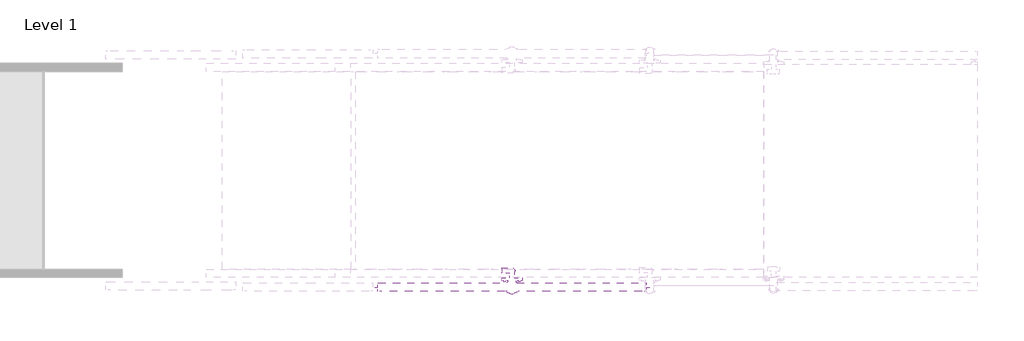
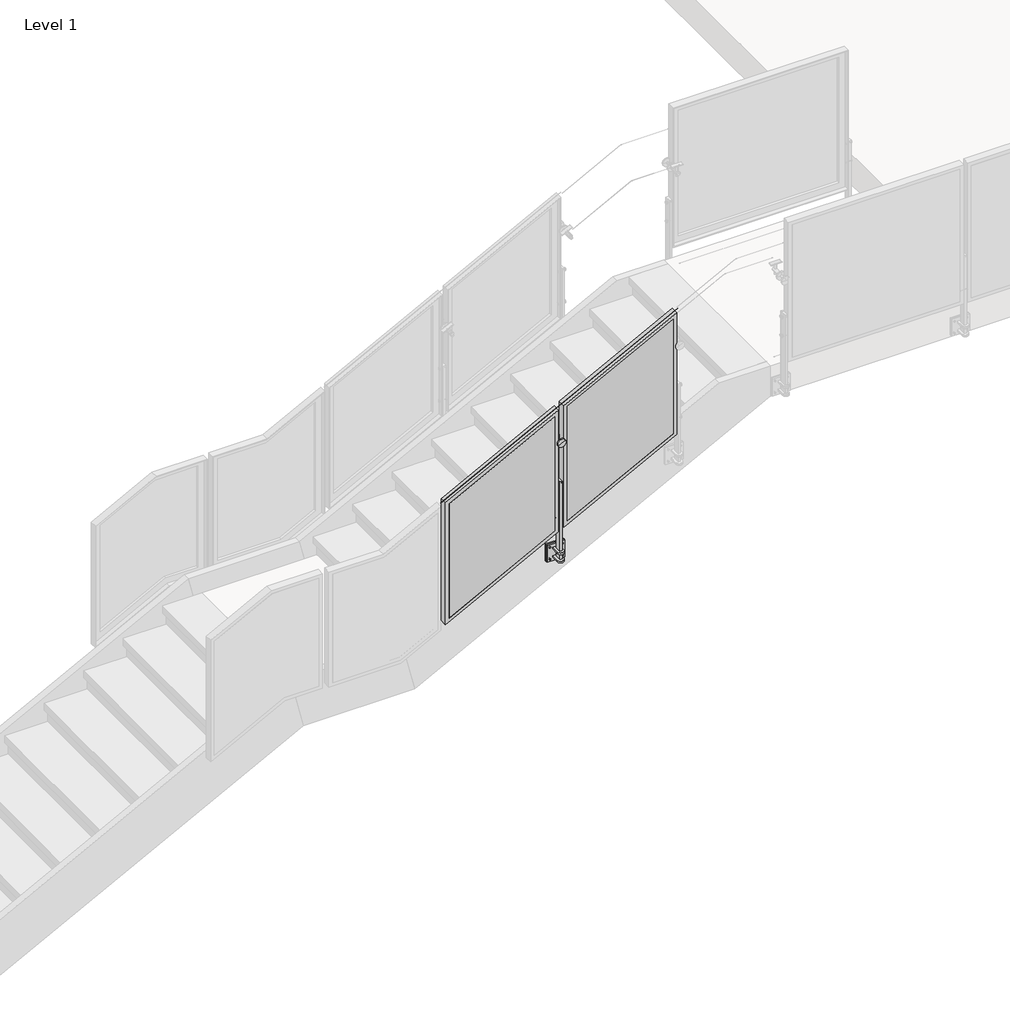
# One storey, part 22 of 37: 1 railing.
"""IFC4 building model written with IfcOpenShell, lengths in millimetres."""

from ifc_helpers import new_model, si_unit, point, frame, frame_2d, origin, place, context, project, spatial, polyline, circle_curve, ellipse_curve, trimmed, segment, composite_curve, outline, extrude, faceted_brep, element, save
from ifc_brep_helpers import plane_surface, cylinder_surface, advanced_brep

model = new_model("IFC4")

# Units and contexts
model_context = context("Model", 3, world=origin())
ifc_project = project(units=[si_unit("LENGTHUNIT", "METRE", prefix="MILLI")], contexts=[model_context])

# Site, building, storey
site = spatial("IfcSite", under=ifc_project)
building = spatial("IfcBuilding", under=site)
storey = spatial("IfcBuildingStorey", under=building, Name="Level 1", Elevation=0.0)

# Railing
placement = place(None, origin())
element("IfcRailing", 1, ObjectType="Metal-Panel-VIVA-FRAME-Fascia-Stairs-Upper", at=placement, inside=storey, context=model_context, shape_type="SolidModel", body=[
    advanced_brep(
    [(-9846.2150814, -3975.5362112, 2887.1943483), (-9846.2150814, -3974.5362112, 2887.1943483), (-8169.8150814, -3975.5362112, 3758.0514911), (-8169.8150814, -3974.5362112, 3758.0514911)],
    [
        (0, 1, ellipse_curve(frame((-9846.2150814, -3975.0362112, 2887.1943483), z_axis=(-1.0, 0.0, 0.0), x_axis=(0.0, 0.0, -1.0)), 0.5634403, 0.5)),
        (1, 0, ellipse_curve(frame((-9846.2150814, -3975.0362112, 2887.1943483), z_axis=(-1.0, 0.0, 0.0), x_axis=(0.0, 0.0, -1.0)), 0.5634403, 0.5)),
        (2, 3, ellipse_curve(frame((-8169.8150814, -3975.0362112, 3758.0514911), z_axis=(1.0, 0.0, 0.0), x_axis=(0.0, 0.0, -1.0)), 0.5634403, 0.5)),
        (3, 2, ellipse_curve(frame((-8169.8150814, -3975.0362112, 3758.0514911), z_axis=(1.0, 0.0, 0.0), x_axis=(0.0, 0.0, -1.0)), 0.5634403, 0.5)),
        (0, 2),
        (3, 1),
    ],
    [
        plane_surface(frame((-9846.2150814, -3975.0362112, 2887.7577886), z_axis=(-1.0, 0.0, 0.0), x_axis=(0.0, 1.0, 0.0))),
        plane_surface(frame((-8169.8150814, -3975.0362112, 3758.6149315), z_axis=(1.0, 0.0, 0.0), x_axis=(0.0, 1.0, 0.0))),
        cylinder_surface(frame((-9845.9845864, -3975.0362112, 2887.3140859), z_axis=(-0.8874054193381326, 0.0, -0.46098982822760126), x_axis=(0.0, 1.0, 0.0)), 0.5),
    ],
    [
        (0, [[1, 2]]),
        (1, [[3, 4]]),
        (2, [[-1, 5, -4, 6]]),
        (2, [[-2, -6, -3, -5]]),
    ],
),
    extrude(outline(polyline([(3315.2073719, -8963.5691244), (2460.8755486, -8963.5691244), (2850.1265024, -8214.2610383), (3704.4583258, -8214.2610383), (3315.2073719, -8963.5691244)])), frame((0.0, -3998.2816112, 0.0), z_axis=(0.0, 1.0, 0.0), x_axis=(0.0, 0.0, 1.0)), (0.0, 0.0, 1.0), 3.0),
    faceted_brep([(-8988.9691244, -3998.2816112, 3330.6353354), (-8988.9691244, -3998.2816112, 2419.0579747), (-8188.8610383, -3998.2816112, 2834.6985389), (-8188.8610383, -3998.2816112, 3746.2758996), (-8963.5691244, -3998.2816112, 3315.2073719), (-8214.2610383, -3998.2816112, 3704.4583258), (-8214.2610383, -3998.2816112, 2850.1265024), (-8963.5691244, -3998.2816112, 2460.8755486), (-8214.2610383, -3995.2816112, 2850.1265024), (-8963.5691244, -3995.2816112, 2460.8755486), (-8214.2610383, -3995.2816112, 3704.4583258), (-8963.5691244, -3995.2816112, 3315.2073719), (-8982.9747244, -3944.4816112, 2428.9269221), (-8982.9747244, -3975.2918112, 2428.9269221), (-8194.8554383, -3975.2918112, 2838.3395383), (-8194.8554383, -3944.4816112, 2838.3395383), (-8194.8554383, -3975.2918112, 3736.4069522), (-8194.8554383, -3944.4816112, 3736.4069522), (-8982.9747244, -3944.4816112, 3326.994336), (-8982.9747244, -3975.2918112, 3326.994336), (-8188.8610383, -3944.4816112, 2834.6985389), (-8988.9691244, -3944.4816112, 2419.0579747), (-8988.9691244, -3944.4816112, 3330.6353354), (-8188.8610383, -3944.4816112, 3746.2758996), (-8938.1691244, -3995.2816112, 3299.7794085), (-8239.6610383, -3995.2816112, 3662.6407519), (-8239.6610383, -3995.2816112, 2865.5544658), (-8938.1691244, -3995.2816112, 2502.6931224), (-8239.6610383, -3975.2918112, 2865.5544658), (-8239.6610383, -3975.2918112, 3662.6407519), (-8938.1691244, -3975.2918112, 3299.7794085), (-8938.1691244, -3975.2918112, 2502.6931224)], [[[0, 1, 2, 3], [4, 5, 6, 7]], [[7, 6, 8, 9]], [[6, 5, 10, 8]], [[5, 4, 11, 10]], [[4, 7, 9, 11]], [[12, 13, 14, 15]], [[15, 14, 16, 17]], [[13, 12, 18, 19]], [[20, 21, 22, 23], [12, 15, 17, 18]], [[21, 1, 0, 22]], [[21, 20, 2, 1]], [[2, 20, 23, 3]], [[22, 0, 3, 23]], [[11, 9, 8, 10], [24, 25, 26, 27]], [[14, 13, 19, 16], [28, 29, 30, 31]], [[19, 18, 17, 16]], [[25, 24, 30, 29]], [[26, 25, 29, 28]], [[27, 26, 28, 31]], [[24, 27, 31, 30]]]),
    extrude(outline(composite_curve([segment(polyline([(2.99974, 0.0), (0.0, 0.0)]), True, "CONTINUOUS"), segment(trimmed(circle_curve(frame_2d((-19.0451471, 0.0)), 19.0451471), [point((0.0, 0.0))], [point((-23.6280664, 18.4855208))], True, "CARTESIAN"), True, "CONTINUOUS"), segment(polyline([(-23.6280664, 18.4855208), (-24.3499073, 21.3971159)]), True, "CONTINUOUS"), segment(trimmed(circle_curve(frame_2d((-19.0451471, 0.0)), 22.0448871), [point((-24.3499073, 21.3971159))], [point((2.99974, 0.0))], False, "CARTESIAN"), True, "CONTINUOUS")], self_intersect=False)), frame((-9070.5027918, -3886.2802112, 3095.1525569), z_axis=(0.8874054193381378, 0.0, 0.4609898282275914), x_axis=(0.284054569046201, -0.7876022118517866, -0.5468050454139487)), (0.0, 0.0, 1.0), 79.1184357),
    advanced_brep(
    [(-8995.6179037, -3871.2802112, 3036.8127931), (-8995.6179037, -3878.4239612, 3036.8127931), (-8995.6179037, -3864.1364612, 3036.8127931), (-9031.47715, -3878.4239612, 3105.8418421), (-9031.47715, -3871.2802112, 3105.8418421), (-9031.47715, -3864.1364612, 3105.8418421)],
    [
        (0, 1),
        (1, 2, circle_curve(frame((-8995.6179037, -3871.2802112, 3036.8127931), z_axis=(0.4609898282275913, 0.0, -0.8874054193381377), x_axis=(0.0, 1.0, 0.0)), 7.14375)),
        (2, 0),
        (3, 4),
        (4, 5),
        (5, 3, circle_curve(frame((-9031.47715, -3871.2802112, 3105.8418421), z_axis=(-0.4609898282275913, 0.0, 0.8874054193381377), x_axis=(0.0, 1.0, 0.0)), 7.14375)),
        (2, 1, circle_curve(frame((-8995.6179037, -3871.2802112, 3036.8127931), z_axis=(0.4609898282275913, 0.0, -0.8874054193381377), x_axis=(0.0, 1.0, 0.0)), 7.14375)),
        (3, 5, circle_curve(frame((-9031.47715, -3871.2802112, 3105.8418421), z_axis=(-0.4609898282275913, 0.0, 0.8874054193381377), x_axis=(0.0, 1.0, 0.0)), 7.14375)),
        (1, 3),
        (5, 2),
    ],
    [
        plane_surface(frame((-8995.6179037, -3871.2802112, 3036.8127931), z_axis=(0.4609898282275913, 0.0, -0.8874054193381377), x_axis=(0.0, 1.0, 0.0))),
        plane_surface(frame((-9031.47715, -3871.2802112, 3105.8418421), z_axis=(-0.4609898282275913, 0.0, 0.8874054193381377), x_axis=(0.0, 1.0, 0.0))),
        cylinder_surface(frame((-8878.6637039, -3871.2802112, 2811.6759583), z_axis=(0.4609898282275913, 0.0, -0.8874054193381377), x_axis=(0.0, 1.0, 0.0)), 7.14375),
    ],
    [
        (0, [[1, 2, 3]]),
        (1, [[4, 5, 6]]),
        (0, [[-3, 7, -1]]),
        (1, [[-5, -4, 8]]),
        (2, [[9, -6, 10, -2]]),
        (2, [[-10, -8, -9, -7]]),
    ],
),
    advanced_brep(
    [(-9034.7814473, -3998.2802112, 3046.7727543), (-9013.6501058, -3998.2802112, 3057.7500746), (-9002.380057, -3998.2802112, 3063.6046454), (-8981.2487154, -3998.2802112, 3074.5819657), (-9034.7814473, -4006.2177112, 3046.7727543), (-8981.2487154, -4006.2177112, 3074.5819657), (-9034.7814473, -3939.5427112, 3046.7727543), (-9019.2851302, -3939.5427112, 3054.8227892), (-8996.7450325, -3939.5427112, 3066.5319309), (-8981.2487154, -3939.5427112, 3074.5819657), (-9034.7814473, -3947.4802112, 3046.7727543), (-8981.2487154, -3947.4802112, 3074.5819657), (-9008.0150814, -4006.2177112, 3060.67736), (-9019.2851302, -3860.1677112, 3054.8227892), (-9008.0150814, -3860.1677112, 3060.67736), (-8996.7450325, -3860.1677112, 3066.5319309), (-9013.6501058, -3947.4802112, 3057.7500746), (-9002.380057, -3947.4802112, 3063.6046454)],
    [
        (0, 1),
        (1, 2, circle_curve(frame((-9008.0150814, -3998.2802112, 3060.67736), z_axis=(0.0, -1.0, 0.0), x_axis=(0.8874054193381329, 0.0, 0.46098982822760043)), 6.35)),
        (2, 3),
        (3, 0, circle_curve(frame((-9008.0150814, -3998.2802112, 3060.67736), z_axis=(0.0, 1.0, 0.0), x_axis=(0.8874054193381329, 0.0, 0.46098982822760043)), 30.1625)),
        (4, 0),
        (3, 5),
        (5, 4, circle_curve(frame((-9008.0150814, -4006.2177112, 3060.67736), z_axis=(0.0, 1.0, 0.0), x_axis=(0.8874054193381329, 0.0, 0.46098982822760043)), 30.1625)),
        (6, 7),
        (7, 8, circle_curve(frame((-9008.0150814, -3939.5427112, 3060.67736), z_axis=(0.0, -1.0, 0.0), x_axis=(0.8874054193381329, 0.0, 0.46098982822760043)), 12.7)),
        (8, 9),
        (9, 6, circle_curve(frame((-9008.0150814, -3939.5427112, 3060.67736), z_axis=(0.0, 1.0, 0.0), x_axis=(0.8874054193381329, 0.0, 0.46098982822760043)), 30.1625)),
        (10, 6),
        (9, 11),
        (11, 10, circle_curve(frame((-9008.0150814, -3947.4802112, 3060.67736), z_axis=(0.0, 1.0, 0.0), x_axis=(0.8874054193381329, 0.0, 0.46098982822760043)), 30.1625)),
        (3, 0, circle_curve(frame((-9008.0150814, -3998.2802112, 3060.67736), z_axis=(0.0, -1.0, 0.0), x_axis=(0.8874054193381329, 0.0, 0.46098982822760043)), 30.1625)),
        (4, 5, circle_curve(frame((-9008.0150814, -4006.2177112, 3060.67736), z_axis=(0.0, 1.0, 0.0), x_axis=(0.8874054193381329, 0.0, 0.46098982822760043)), 30.1625)),
        (12, 4),
        (5, 12),
        (13, 14),
        (14, 15),
        (15, 13, circle_curve(frame((-9008.0150814, -3860.1677112, 3060.67736), z_axis=(0.0, 1.0, 0.0), x_axis=(0.8874054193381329, 0.0, 0.46098982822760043)), 12.7)),
        (13, 15, circle_curve(frame((-9008.0150814, -3860.1677112, 3060.67736), z_axis=(0.0, 1.0, 0.0), x_axis=(0.8874054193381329, 0.0, 0.46098982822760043)), 12.7)),
        (7, 13),
        (15, 8),
        (7, 8, circle_curve(frame((-9008.0150814, -3939.5427112, 3060.67736), z_axis=(0.0, 1.0, 0.0), x_axis=(0.8874054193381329, 0.0, 0.46098982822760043)), 12.7)),
        (6, 9, circle_curve(frame((-9008.0150814, -3939.5427112, 3060.67736), z_axis=(0.0, 1.0, 0.0), x_axis=(0.8874054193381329, 0.0, 0.46098982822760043)), 30.1625)),
        (10, 11, circle_curve(frame((-9008.0150814, -3947.4802112, 3060.67736), z_axis=(0.0, 1.0, 0.0), x_axis=(0.8874054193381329, 0.0, 0.46098982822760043)), 30.1625)),
        (16, 10),
        (11, 17),
        (17, 16, circle_curve(frame((-9008.0150814, -3947.4802112, 3060.67736), z_axis=(0.0, 1.0, 0.0), x_axis=(0.8874054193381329, 0.0, 0.46098982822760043)), 6.35)),
        (16, 17, circle_curve(frame((-9008.0150814, -3947.4802112, 3060.67736), z_axis=(0.0, 1.0, 0.0), x_axis=(0.8874054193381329, 0.0, 0.46098982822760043)), 6.35)),
        (1, 16),
        (17, 2),
        (1, 2, circle_curve(frame((-9008.0150814, -3998.2802112, 3060.67736), z_axis=(0.0, 1.0, 0.0), x_axis=(0.8874054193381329, 0.0, 0.46098982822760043)), 6.35)),
    ],
    [
        plane_surface(frame((-9008.0150814, -3998.2802112, 3060.67736), z_axis=(0.0, 1.0, 0.0), x_axis=(0.8874054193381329, 0.0, 0.46098982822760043))),
        cylinder_surface(frame((-9008.0150814, -5471.4802112, 3060.67736), z_axis=(0.0, -1.0, 0.0), x_axis=(0.8874054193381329, 0.0, 0.46098982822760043)), 30.1625),
        plane_surface(frame((-9008.0150814, -3939.5427112, 3060.67736), z_axis=(0.0, 1.0, 0.0), x_axis=(0.8874054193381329, 0.0, 0.46098982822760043))),
        plane_surface(frame((-9008.0150814, -4006.2177112, 3060.67736), z_axis=(0.0, -1.0, 0.0), x_axis=(0.8874054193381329, 0.0, 0.46098982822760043))),
        plane_surface(frame((-9008.0150814, -3860.1677112, 3060.67736), z_axis=(0.0, 1.0, 0.0), x_axis=(0.8874054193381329, 0.0, 0.46098982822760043))),
        cylinder_surface(frame((-9008.0150814, -5471.4802112, 3060.67736), z_axis=(0.0, -1.0, 0.0), x_axis=(0.8874054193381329, 0.0, 0.46098982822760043)), 12.7),
        plane_surface(frame((-9008.0150814, -3947.4802112, 3060.67736), z_axis=(0.0, -1.0, 0.0), x_axis=(0.8874054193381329, 0.0, 0.46098982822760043))),
        cylinder_surface(frame((-9008.0150814, -5471.4802112, 3060.67736), z_axis=(0.0, -1.0, 0.0), x_axis=(0.8874054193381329, 0.0, 0.46098982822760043)), 6.35),
    ],
    [
        (0, [[1, 2, 3, 4]]),
        (1, [[5, -4, 6, 7]]),
        (2, [[8, 9, 10, 11]]),
        (1, [[12, -11, 13, 14]]),
        (1, [[-6, 15, -5, 16]]),
        (3, [[17, -7, 18]]),
        (3, [[-18, -16, -17]]),
        (4, [[19, 20, 21]]),
        (4, [[-20, -19, 22]]),
        (5, [[23, -21, 24, -9]]),
        (5, [[-24, -22, -23, 25]]),
        (2, [[-10, -25, -8, 26]]),
        (1, [[-13, -26, -12, 27]]),
        (6, [[28, -14, 29, 30]]),
        (6, [[-29, -27, -28, 31]]),
        (7, [[32, -30, 33, -2]]),
        (7, [[-33, -31, -32, 34]]),
        (0, [[-3, -34, -1, -15]]),
    ],
),
    extrude(outline(composite_curve([segment(polyline([(-9031.0528814, -3992.6811179), (-9031.0528814, -3934.7802112), (-8984.9772814, -3934.7802112), (-8984.9772814, -3992.6811179)]), True, "CONTINUOUS"), segment(trimmed(circle_curve(frame_2d((-9008.0150814, -3992.6811179)), 23.0378), [point((-8984.9772814, -3992.6811179))], [point((-9031.0528814, -3992.6811179))], False, "CARTESIAN"), True, "CONTINUOUS")], self_intersect=False)), frame((0.0, 0.0, 2172.3495143), z_axis=(0.0, 0.0, 1.0), x_axis=(1.0, 0.0, 0.0)), (0.0, 0.0, 1.0), 12.7),
    extrude(outline(composite_curve([segment(polyline([(-8984.9772814, -3934.7802112), (-8984.9772814, -3992.6811179)]), True, "CONTINUOUS"), segment(trimmed(circle_curve(frame_2d((-9008.0150814, -3992.6811179)), 23.0378), [point((-8984.9772814, -3992.6811179))], [point((-9031.0528814, -3992.6811179))], False, "CARTESIAN"), True, "CONTINUOUS"), segment(polyline([(-9031.0528814, -3992.6811179), (-9031.0528814, -3934.7802112), (-8984.9772814, -3934.7802112)]), True, "CONTINUOUS")], self_intersect=False)), frame((0.0, 0.0, 2234.2747143), z_axis=(0.0, 0.0, 1.0), x_axis=(1.0, 0.0, 0.0)), (0.0, 0.0, 1.0), 12.7),
    extrude(outline(composite_curve([segment(trimmed(circle_curve(frame_2d((2254.9249143, -8963.5701495)), 4.7752), [point((2254.9249143, -8958.7949495))], [point((2254.9249143, -8968.3453495))], False, "CARTESIAN"), True, "CONTINUOUS"), segment(trimmed(circle_curve(frame_2d((2254.9249143, -8963.5701495)), 4.7752), [point((2254.9249143, -8968.3453495))], [point((2254.9249143, -8958.7949495))], False, "CARTESIAN"), True, "CONTINUOUS")], self_intersect=False)), frame((0.0, -3939.5554112, 0.0), z_axis=(0.0, 1.0, 0.0), x_axis=(0.0, 0.0, 1.0)), (0.0, 0.0, 1.0), 14.3002),
    extrude(outline(composite_curve([segment(trimmed(circle_curve(frame_2d((2254.9249143, -9052.4600132)), 4.7752), [point((2254.9249143, -9047.6848132))], [point((2254.9249143, -9057.2352132))], False, "CARTESIAN"), True, "CONTINUOUS"), segment(trimmed(circle_curve(frame_2d((2254.9249143, -9052.4600132)), 4.7752), [point((2254.9249143, -9057.2352132))], [point((2254.9249143, -9047.6848132))], False, "CARTESIAN"), True, "CONTINUOUS")], self_intersect=False)), frame((0.0, -3939.5554112, 0.0), z_axis=(0.0, 1.0, 0.0), x_axis=(0.0, 0.0, 1.0)), (0.0, 0.0, 1.0), 14.3002),
    extrude(outline(composite_curve([segment(trimmed(circle_curve(frame_2d((2166.0249143, -9052.4600132)), 4.7752), [point((2166.0249143, -9047.6848132))], [point((2166.0249143, -9057.2352132))], False, "CARTESIAN"), True, "CONTINUOUS"), segment(trimmed(circle_curve(frame_2d((2166.0249143, -9052.4600132)), 4.7752), [point((2166.0249143, -9057.2352132))], [point((2166.0249143, -9047.6848132))], False, "CARTESIAN"), True, "CONTINUOUS")], self_intersect=False)), frame((0.0, -3939.5554112, 0.0), z_axis=(0.0, 1.0, 0.0), x_axis=(0.0, 0.0, 1.0)), (0.0, 0.0, 1.0), 14.3002),
    extrude(outline(composite_curve([segment(trimmed(circle_curve(frame_2d((2166.0249143, -8963.5701495)), 4.7752), [point((2166.0249143, -8958.7949495))], [point((2166.0249143, -8968.3453495))], False, "CARTESIAN"), True, "CONTINUOUS"), segment(trimmed(circle_curve(frame_2d((2166.0249143, -8963.5701495)), 4.7752), [point((2166.0249143, -8968.3453495))], [point((2166.0249143, -8958.7949495))], False, "CARTESIAN"), True, "CONTINUOUS")], self_intersect=False)), frame((0.0, -3939.5554112, 0.0), z_axis=(0.0, 1.0, 0.0), x_axis=(0.0, 0.0, 1.0)), (0.0, 0.0, 1.0), 14.3002),
    extrude(outline(polyline([(-8944.5170598, -3925.2552112), (-9071.5131029, -3925.2552112), (-9071.5131029, -3915.7302112), (-8944.5170598, -3915.7302112), (-8944.5170598, -3925.2552112)])), frame((0.0, 0.0, 2146.9749143), z_axis=(0.0, 0.0, 1.0), x_axis=(1.0, 0.0, 0.0)), (0.0, 0.0, 1.0), 127.0),
    extrude(outline(polyline([(-8944.5170598, -3934.7802112), (-9071.5131029, -3934.7802112), (-9071.5131029, -3925.2552112), (-8944.5170598, -3925.2552112), (-8944.5170598, -3934.7802112)])), frame((0.0, 0.0, 2146.9749143), z_axis=(0.0, 0.0, 1.0), x_axis=(1.0, 0.0, 0.0)), (0.0, 0.0, 1.0), 127.0),
    advanced_brep(
    [(-9034.2024814, -3972.8802112, 2491.4243143), (-9034.2024814, -3972.8802112, 2510.5251143), (-9034.2024814, -3972.8802112, 2500.9747143), (-9029.4272814, -3972.8802112, 2491.4243143), (-9029.4272814, -3972.8802112, 2510.5251143), (-9029.4272814, -3972.8802112, 2496.1995143), (-9029.4272814, -3972.8802112, 2505.7499143), (-8986.6028814, -3972.8802112, 2496.1995143), (-8986.6028814, -3972.8802112, 2505.7499143), (-8986.6028814, -3972.8802112, 2491.4243143), (-8986.6028814, -3972.8802112, 2510.5251143), (-8981.8276814, -3972.8802112, 2491.4243143), (-8981.8276814, -3972.8802112, 2510.5251143), (-8981.8276814, -3972.8802112, 2500.9747143)],
    [
        (0, 1, circle_curve(frame((-9034.2024814, -3972.8802112, 2500.9747143), z_axis=(-1.0, 0.0, 0.0), x_axis=(0.0, 0.0, 1.0)), 9.5504)),
        (1, 2),
        (2, 0),
        (1, 0, circle_curve(frame((-9034.2024814, -3972.8802112, 2500.9747143), z_axis=(-1.0, 0.0, 0.0), x_axis=(0.0, 0.0, 1.0)), 9.5504)),
        (3, 4, circle_curve(frame((-9029.4272814, -3972.8802112, 2500.9747143), z_axis=(-1.0, 0.0, 0.0), x_axis=(0.0, 0.0, 1.0)), 9.5504)),
        (4, 1),
        (0, 3),
        (4, 3, circle_curve(frame((-9029.4272814, -3972.8802112, 2500.9747143), z_axis=(-1.0, 0.0, 0.0), x_axis=(0.0, 0.0, 1.0)), 9.5504)),
        (5, 6, circle_curve(frame((-9029.4272814, -3972.8802112, 2500.9747143), z_axis=(-1.0, 0.0, 0.0), x_axis=(0.0, 0.0, 1.0)), 4.7752)),
        (6, 4),
        (3, 5),
        (6, 5, circle_curve(frame((-9029.4272814, -3972.8802112, 2500.9747143), z_axis=(-1.0, 0.0, 0.0), x_axis=(0.0, 0.0, 1.0)), 4.7752)),
        (7, 8, circle_curve(frame((-8986.6028814, -3972.8802112, 2500.9747143), z_axis=(-1.0, 0.0, 0.0), x_axis=(0.0, 0.0, 1.0)), 4.7752)),
        (8, 6),
        (5, 7),
        (8, 7, circle_curve(frame((-8986.6028814, -3972.8802112, 2500.9747143), z_axis=(-1.0, 0.0, 0.0), x_axis=(0.0, 0.0, 1.0)), 4.7752)),
        (9, 10, circle_curve(frame((-8986.6028814, -3972.8802112, 2500.9747143), z_axis=(-1.0, 0.0, 0.0), x_axis=(0.0, 0.0, 1.0)), 9.5504)),
        (10, 8),
        (7, 9),
        (10, 9, circle_curve(frame((-8986.6028814, -3972.8802112, 2500.9747143), z_axis=(-1.0, 0.0, 0.0), x_axis=(0.0, 0.0, 1.0)), 9.5504)),
        (11, 12, circle_curve(frame((-8981.8276814, -3972.8802112, 2500.9747143), z_axis=(-1.0, 0.0, 0.0), x_axis=(0.0, 0.0, 1.0)), 9.5504)),
        (12, 10),
        (9, 11),
        (12, 11, circle_curve(frame((-8981.8276814, -3972.8802112, 2500.9747143), z_axis=(-1.0, 0.0, 0.0), x_axis=(0.0, 0.0, 1.0)), 9.5504)),
        (13, 12),
        (11, 13),
    ],
    [
        plane_surface(frame((-9034.2024814, -3972.8802112, 2500.9747143), z_axis=(-1.0, 0.0, 0.0), x_axis=(0.0, 0.0, 1.0))),
        cylinder_surface(frame((-12425.7828385, -3972.8802112, 2500.9747143), z_axis=(1.0, 0.0, 0.0), x_axis=(0.0, 0.0, 1.0)), 9.5504),
        plane_surface(frame((-9029.4272814, -3972.8802112, 2500.9747143), z_axis=(1.0, 0.0, 0.0), x_axis=(0.0, 0.0, 1.0))),
        cylinder_surface(frame((-12425.7828385, -3972.8802112, 2500.9747143), z_axis=(1.0, 0.0, 0.0), x_axis=(0.0, 0.0, 1.0)), 4.7752),
        plane_surface(frame((-8986.6028814, -3972.8802112, 2500.9747143), z_axis=(-1.0, 0.0, 0.0), x_axis=(0.0, 0.0, 1.0))),
        plane_surface(frame((-8981.8276814, -3972.8802112, 2500.9747143), z_axis=(1.0, 0.0, 0.0), x_axis=(0.0, 0.0, 1.0))),
    ],
    [
        (0, [[1, 2, 3]]),
        (0, [[4, -3, -2]]),
        (1, [[5, 6, -1, 7]]),
        (1, [[8, -7, -4, -6]]),
        (2, [[9, 10, -5, 11]]),
        (2, [[12, -11, -8, -10]]),
        (3, [[13, 14, -9, 15]]),
        (3, [[16, -15, -12, -14]]),
        (4, [[17, 18, -13, 19]]),
        (4, [[20, -19, -16, -18]]),
        (1, [[21, 22, -17, 23]]),
        (1, [[24, -23, -20, -22]]),
        (5, [[25, -21, 26]]),
        (5, [[-26, -24, -25]]),
    ],
),
    advanced_brep(
    [(-9034.2024814, -3972.8802112, 2732.7243143), (-9034.2024814, -3972.8802112, 2751.8251143), (-9034.2024814, -3972.8802112, 2742.2747143), (-9029.4272814, -3972.8802112, 2732.7243143), (-9029.4272814, -3972.8802112, 2751.8251143), (-9029.4272814, -3972.8802112, 2737.4995143), (-9029.4272814, -3972.8802112, 2747.0499143), (-8986.6028814, -3972.8802112, 2737.4995143), (-8986.6028814, -3972.8802112, 2747.0499143), (-8986.6028814, -3972.8802112, 2732.7243143), (-8986.6028814, -3972.8802112, 2751.8251143), (-8981.8276814, -3972.8802112, 2732.7243143), (-8981.8276814, -3972.8802112, 2751.8251143), (-8981.8276814, -3972.8802112, 2742.2747143)],
    [
        (0, 1, circle_curve(frame((-9034.2024814, -3972.8802112, 2742.2747143), z_axis=(-1.0, 0.0, 0.0), x_axis=(0.0, 0.0, 1.0)), 9.5504)),
        (1, 2),
        (2, 0),
        (1, 0, circle_curve(frame((-9034.2024814, -3972.8802112, 2742.2747143), z_axis=(-1.0, 0.0, 0.0), x_axis=(0.0, 0.0, 1.0)), 9.5504)),
        (3, 4, circle_curve(frame((-9029.4272814, -3972.8802112, 2742.2747143), z_axis=(-1.0, 0.0, 0.0), x_axis=(0.0, 0.0, 1.0)), 9.5504)),
        (4, 1),
        (0, 3),
        (4, 3, circle_curve(frame((-9029.4272814, -3972.8802112, 2742.2747143), z_axis=(-1.0, 0.0, 0.0), x_axis=(0.0, 0.0, 1.0)), 9.5504)),
        (5, 6, circle_curve(frame((-9029.4272814, -3972.8802112, 2742.2747143), z_axis=(-1.0, 0.0, 0.0), x_axis=(0.0, 0.0, 1.0)), 4.7752)),
        (6, 4),
        (3, 5),
        (6, 5, circle_curve(frame((-9029.4272814, -3972.8802112, 2742.2747143), z_axis=(-1.0, 0.0, 0.0), x_axis=(0.0, 0.0, 1.0)), 4.7752)),
        (7, 8, circle_curve(frame((-8986.6028814, -3972.8802112, 2742.2747143), z_axis=(-1.0, 0.0, 0.0), x_axis=(0.0, 0.0, 1.0)), 4.7752)),
        (8, 6),
        (5, 7),
        (8, 7, circle_curve(frame((-8986.6028814, -3972.8802112, 2742.2747143), z_axis=(-1.0, 0.0, 0.0), x_axis=(0.0, 0.0, 1.0)), 4.7752)),
        (9, 10, circle_curve(frame((-8986.6028814, -3972.8802112, 2742.2747143), z_axis=(-1.0, 0.0, 0.0), x_axis=(0.0, 0.0, 1.0)), 9.5504)),
        (10, 8),
        (7, 9),
        (10, 9, circle_curve(frame((-8986.6028814, -3972.8802112, 2742.2747143), z_axis=(-1.0, 0.0, 0.0), x_axis=(0.0, 0.0, 1.0)), 9.5504)),
        (11, 12, circle_curve(frame((-8981.8276814, -3972.8802112, 2742.2747143), z_axis=(-1.0, 0.0, 0.0), x_axis=(0.0, 0.0, 1.0)), 9.5504)),
        (12, 10),
        (9, 11),
        (12, 11, circle_curve(frame((-8981.8276814, -3972.8802112, 2742.2747143), z_axis=(-1.0, 0.0, 0.0), x_axis=(0.0, 0.0, 1.0)), 9.5504)),
        (13, 12),
        (11, 13),
    ],
    [
        plane_surface(frame((-9034.2024814, -3972.8802112, 2742.2747143), z_axis=(-1.0, 0.0, 0.0), x_axis=(0.0, 0.0, 1.0))),
        cylinder_surface(frame((-12425.7828385, -3972.8802112, 2742.2747143), z_axis=(1.0, 0.0, 0.0), x_axis=(0.0, 0.0, 1.0)), 9.5504),
        plane_surface(frame((-9029.4272814, -3972.8802112, 2742.2747143), z_axis=(1.0, 0.0, 0.0), x_axis=(0.0, 0.0, 1.0))),
        cylinder_surface(frame((-12425.7828385, -3972.8802112, 2742.2747143), z_axis=(1.0, 0.0, 0.0), x_axis=(0.0, 0.0, 1.0)), 4.7752),
        plane_surface(frame((-8986.6028814, -3972.8802112, 2742.2747143), z_axis=(-1.0, 0.0, 0.0), x_axis=(0.0, 0.0, 1.0))),
        plane_surface(frame((-8981.8276814, -3972.8802112, 2742.2747143), z_axis=(1.0, 0.0, 0.0), x_axis=(0.0, 0.0, 1.0))),
    ],
    [
        (0, [[1, 2, 3]]),
        (0, [[4, -3, -2]]),
        (1, [[5, 6, -1, 7]]),
        (1, [[8, -7, -4, -6]]),
        (2, [[9, 10, -5, 11]]),
        (2, [[12, -11, -8, -10]]),
        (3, [[13, 14, -9, 15]]),
        (3, [[16, -15, -12, -14]]),
        (4, [[17, 18, -13, 19]]),
        (4, [[20, -19, -16, -18]]),
        (1, [[21, 22, -17, 23]]),
        (1, [[24, -23, -20, -22]]),
        (5, [[25, -21, 26]]),
        (5, [[-26, -24, -25]]),
    ],
),
    extrude(outline(polyline([(-9015.954673, -3950.6552112), (-9000.0754897, -3950.6552112), (-9000.0754897, -3995.1052112), (-9015.954673, -3995.1052112), (-9015.954673, -3950.6552112)])), frame((0.0, 0.0, 2178.6995143), z_axis=(0.0, 0.0, 1.0), x_axis=(1.0, 0.0, 0.0)), (0.0, 0.0, 1.0), 588.9752),
    extrude(outline(polyline([(2879.7788005, -9801.7691244), (2025.4469771, -9801.7691244), (2414.697931, -9052.4610383), (3269.0297543, -9052.4610383), (2879.7788005, -9801.7691244)])), frame((0.0, -3998.2816112, 0.0), z_axis=(0.0, 1.0, 0.0), x_axis=(0.0, 0.0, 1.0)), (0.0, 0.0, 1.0), 3.0),
    faceted_brep([(-9827.1691244, -3998.2816112, 2895.2067639), (-9827.1691244, -3998.2816112, 1983.6294033), (-9027.0610383, -3998.2816112, 2399.2699675), (-9027.0610383, -3998.2816112, 3310.8473282), (-9801.7691244, -3998.2816112, 2879.7788005), (-9052.4610383, -3998.2816112, 3269.0297543), (-9052.4610383, -3998.2816112, 2414.697931), (-9801.7691244, -3998.2816112, 2025.4469771), (-9052.4610383, -3995.2816112, 2414.697931), (-9801.7691244, -3995.2816112, 2025.4469771), (-9052.4610383, -3995.2816112, 3269.0297543), (-9801.7691244, -3995.2816112, 2879.7788005), (-9821.1747244, -3944.4816112, 1993.4983507), (-9821.1747244, -3975.2918112, 1993.4983507), (-9033.0554383, -3975.2918112, 2402.9109669), (-9033.0554383, -3944.4816112, 2402.9109669), (-9033.0554383, -3975.2918112, 3300.9783807), (-9033.0554383, -3944.4816112, 3300.9783807), (-9821.1747244, -3944.4816112, 2891.5657646), (-9821.1747244, -3975.2918112, 2891.5657646), (-9027.0610383, -3944.4816112, 2399.2699675), (-9827.1691244, -3944.4816112, 1983.6294033), (-9827.1691244, -3944.4816112, 2895.2067639), (-9027.0610383, -3944.4816112, 3310.8473282), (-9776.3691244, -3995.2816112, 2864.3508371), (-9077.8610383, -3995.2816112, 3227.2121805), (-9077.8610383, -3995.2816112, 2430.1258944), (-9776.3691244, -3995.2816112, 2067.264551), (-9077.8610383, -3975.2918112, 2430.1258944), (-9077.8610383, -3975.2918112, 3227.2121805), (-9776.3691244, -3975.2918112, 2864.3508371), (-9776.3691244, -3975.2918112, 2067.264551)], [[[0, 1, 2, 3], [4, 5, 6, 7]], [[7, 6, 8, 9]], [[6, 5, 10, 8]], [[5, 4, 11, 10]], [[4, 7, 9, 11]], [[12, 13, 14, 15]], [[15, 14, 16, 17]], [[13, 12, 18, 19]], [[20, 21, 22, 23], [12, 15, 17, 18]], [[21, 1, 0, 22]], [[21, 20, 2, 1]], [[2, 20, 23, 3]], [[22, 0, 3, 23]], [[11, 9, 8, 10], [24, 25, 26, 27]], [[14, 13, 19, 16], [28, 29, 30, 31]], [[19, 18, 17, 16]], [[25, 24, 30, 29]], [[26, 25, 29, 28]], [[27, 26, 28, 31]], [[24, 27, 31, 30]]]),
])

save(model, "model.ifc")
